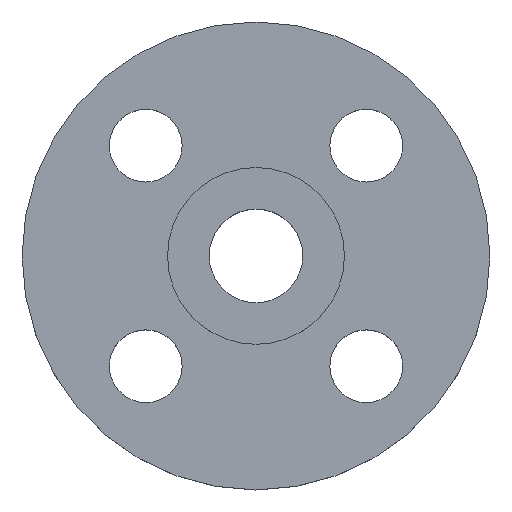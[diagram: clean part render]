
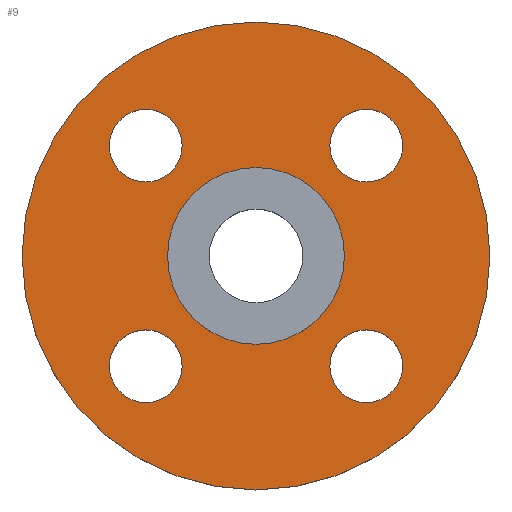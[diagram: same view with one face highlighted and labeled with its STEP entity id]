
A CAD part, top view. The second image highlights one B-rep face of the part: STEP entity #9.
In plain terms, the highlighted planar face has unit normal (0, 0, 1).
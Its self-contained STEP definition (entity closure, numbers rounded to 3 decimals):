
#9 = ADVANCED_FACE ( 'NONE', ( #562, #563, #564, #565, #567, #568 ), #569, .T. ) ;
#15 = EDGE_CURVE ( 'NONE', #715, #373, #125, .T. ) ;
#24 = EDGE_CURVE ( 'NONE', #461, #367, #31, .T. ) ;
#31 = CIRCLE ( 'NONE', #270, 7. ) ;
#36 = AXIS2_PLACEMENT_3D ( 'NONE', #184, #185, #186 ) ;
#61 = CARTESIAN_POINT ( 'NONE',  ( 45., 0., -4.5 ) ) ;
#80 = DIRECTION ( 'NONE',  ( -1., 0., 0. ) ) ;
#81 = DIRECTION ( 'NONE',  ( 0., 0., -1. ) ) ;
#82 = CARTESIAN_POINT ( 'NONE',  ( 0., 0., -4.5 ) ) ;
#86 = CIRCLE ( 'NONE', #268, 17. ) ;
#99 = CARTESIAN_POINT ( 'NONE',  ( -28.213, -21.213, -4.5 ) ) ;
#112 = DIRECTION ( 'NONE',  ( 0., 0., -1. ) ) ;
#114 = CARTESIAN_POINT ( 'NONE',  ( -21.213, 21.213, -4.5 ) ) ;
#118 = EDGE_CURVE ( 'NONE', #373, #715, #127, .T. ) ;
#119 = CIRCLE ( 'NONE', #682, 7. ) ;
#125 = CIRCLE ( 'NONE', #431, 45. ) ;
#127 = CIRCLE ( 'NONE', #392, 45. ) ;
#134 = CARTESIAN_POINT ( 'NONE',  ( 21.213, -21.213, -4.5 ) ) ;
#137 = EDGE_CURVE ( 'NONE', #334, #363, #218, .T. ) ;
#149 = DIRECTION ( 'NONE',  ( 0., 0., -1. ) ) ;
#151 = DIRECTION ( 'NONE',  ( 1., 0., 0. ) ) ;
#152 = CARTESIAN_POINT ( 'NONE',  ( -28.213, 21.213, -4.5 ) ) ;
#153 = CIRCLE ( 'NONE', #340, 7. ) ;
#154 = CARTESIAN_POINT ( 'NONE',  ( -21.213, -21.213, -4.5 ) ) ;
#156 = DIRECTION ( 'NONE',  ( 1., 0., 0. ) ) ;
#164 = CIRCLE ( 'NONE', #361, 7. ) ;
#166 = EDGE_CURVE ( 'NONE', #433, #543, #119, .T. ) ;
#167 = CARTESIAN_POINT ( 'NONE',  ( 17., 0., -4.5 ) ) ;
#184 = CARTESIAN_POINT ( 'NONE',  ( 21.213, 21.213, -4.5 ) ) ;
#185 = DIRECTION ( 'NONE',  ( 0., 0., -1. ) ) ;
#186 = DIRECTION ( 'NONE',  ( 1., 0., 0. ) ) ;
#218 = CIRCLE ( 'NONE', #263, 7. ) ;
#221 = CARTESIAN_POINT ( 'NONE',  ( 28.213, 21.213, -4.5 ) ) ;
#224 = EDGE_CURVE ( 'NONE', #539, #411, #233, .T. ) ;
#233 = CIRCLE ( 'NONE', #577, 17. ) ;
#241 = EDGE_CURVE ( 'NONE', #327, #432, #302, .T. ) ;
#242 = CARTESIAN_POINT ( 'NONE',  ( 28.213, -21.213, -4.5 ) ) ;
#251 = CIRCLE ( 'NONE', #655, 7. ) ;
#263 = AXIS2_PLACEMENT_3D ( 'NONE', #632, #633, #635 ) ;
#268 = AXIS2_PLACEMENT_3D ( 'NONE', #82, #81, #80 ) ;
#270 = AXIS2_PLACEMENT_3D ( 'NONE', #597, #598, #599 ) ;
#271 = CARTESIAN_POINT ( 'NONE',  ( 14.213, -21.213, -4.5 ) ) ;
#276 = CARTESIAN_POINT ( 'NONE',  ( -14.213, -21.213, -4.5 ) ) ;
#280 = CARTESIAN_POINT ( 'NONE',  ( -45., 0., -4.5 ) ) ;
#298 = AXIS2_PLACEMENT_3D ( 'NONE', #571, #572, #573 ) ;
#300 = CARTESIAN_POINT ( 'NONE',  ( 21.213, 21.213, -4.5 ) ) ;
#301 = DIRECTION ( 'NONE',  ( 0., 0., -1. ) ) ;
#302 = CIRCLE ( 'NONE', #36, 7. ) ;
#303 = DIRECTION ( 'NONE',  ( 1., 0., 0. ) ) ;
#309 = CARTESIAN_POINT ( 'NONE',  ( -17., 0., -4.5 ) ) ;
#316 = DIRECTION ( 'NONE',  ( 0., 0., -1. ) ) ;
#327 = VERTEX_POINT ( 'NONE', #221 ) ;
#334 = VERTEX_POINT ( 'NONE', #242 ) ;
#336 = DIRECTION ( 'NONE',  ( 1., 0., 0. ) ) ;
#340 = AXIS2_PLACEMENT_3D ( 'NONE', #154, #316, #336 ) ;
#342 = CARTESIAN_POINT ( 'NONE',  ( 14.213, 21.213, -4.5 ) ) ;
#344 = CARTESIAN_POINT ( 'NONE',  ( -14.213, 21.213, -4.5 ) ) ;
#361 = AXIS2_PLACEMENT_3D ( 'NONE', #300, #301, #303 ) ;
#363 = VERTEX_POINT ( 'NONE', #271 ) ;
#367 = VERTEX_POINT ( 'NONE', #276 ) ;
#373 = VERTEX_POINT ( 'NONE', #280 ) ;
#392 = AXIS2_PLACEMENT_3D ( 'NONE', #623, #625, #626 ) ;
#396 = EDGE_CURVE ( 'NONE', #432, #327, #164, .T. ) ;
#407 = EDGE_LOOP ( 'NONE', ( #460, #462 ) ) ;
#411 = VERTEX_POINT ( 'NONE', #309 ) ;
#422 = AXIS2_PLACEMENT_3D ( 'NONE', #114, #112, #151 ) ;
#431 = AXIS2_PLACEMENT_3D ( 'NONE', #575, #576, #578 ) ;
#432 = VERTEX_POINT ( 'NONE', #342 ) ;
#433 = VERTEX_POINT ( 'NONE', #344 ) ;
#448 = ORIENTED_EDGE ( 'NONE', *, *, #137, .T. ) ;
#449 = ORIENTED_EDGE ( 'NONE', *, *, #538, .T. ) ;
#450 = ORIENTED_EDGE ( 'NONE', *, *, #616, .T. ) ;
#451 = ORIENTED_EDGE ( 'NONE', *, *, #24, .T. ) ;
#452 = ORIENTED_EDGE ( 'NONE', *, *, #166, .T. ) ;
#453 = ORIENTED_EDGE ( 'NONE', *, *, #505, .T. ) ;
#454 = ORIENTED_EDGE ( 'NONE', *, *, #241, .T. ) ;
#455 = ORIENTED_EDGE ( 'NONE', *, *, #396, .T. ) ;
#456 = ORIENTED_EDGE ( 'NONE', *, *, #654, .T. ) ;
#457 = ORIENTED_EDGE ( 'NONE', *, *, #224, .T. ) ;
#459 = EDGE_LOOP ( 'NONE', ( #454, #455 ) ) ;
#460 = ORIENTED_EDGE ( 'NONE', *, *, #15, .F. ) ;
#461 = VERTEX_POINT ( 'NONE', #99 ) ;
#462 = ORIENTED_EDGE ( 'NONE', *, *, #118, .F. ) ;
#492 = EDGE_LOOP ( 'NONE', ( #456, #457 ) ) ;
#497 = EDGE_LOOP ( 'NONE', ( #448, #449 ) ) ;
#505 = EDGE_CURVE ( 'NONE', #543, #433, #594, .T. ) ;
#532 = EDGE_LOOP ( 'NONE', ( #450, #451 ) ) ;
#534 = EDGE_LOOP ( 'NONE', ( #452, #453 ) ) ;
#538 = EDGE_CURVE ( 'NONE', #363, #334, #251, .T. ) ;
#539 = VERTEX_POINT ( 'NONE', #167 ) ;
#543 = VERTEX_POINT ( 'NONE', #152 ) ;
#562 = FACE_BOUND ( 'NONE', #497, .T. ) ;
#563 = FACE_BOUND ( 'NONE', #532, .T. ) ;
#564 = FACE_BOUND ( 'NONE', #534, .T. ) ;
#565 = FACE_BOUND ( 'NONE', #459, .T. ) ;
#567 = FACE_BOUND ( 'NONE', #492, .T. ) ;
#568 = FACE_OUTER_BOUND ( 'NONE', #407, .T. ) ;
#569 = PLANE ( 'NONE',  #298 ) ;
#571 = CARTESIAN_POINT ( 'NONE',  ( 17., 0., -4.5 ) ) ;
#572 = DIRECTION ( 'NONE',  ( 0., 0., 1. ) ) ;
#573 = DIRECTION ( 'NONE',  ( 1., 0., 0. ) ) ;
#575 = CARTESIAN_POINT ( 'NONE',  ( 0., 0., -4.5 ) ) ;
#576 = DIRECTION ( 'NONE',  ( 0., 0., -1. ) ) ;
#577 = AXIS2_PLACEMENT_3D ( 'NONE', #713, #714, #716 ) ;
#578 = DIRECTION ( 'NONE',  ( -1., 0., 0. ) ) ;
#594 = CIRCLE ( 'NONE', #422, 7. ) ;
#597 = CARTESIAN_POINT ( 'NONE',  ( -21.213, -21.213, -4.5 ) ) ;
#598 = DIRECTION ( 'NONE',  ( 0., 0., -1. ) ) ;
#599 = DIRECTION ( 'NONE',  ( 1., 0., 0. ) ) ;
#616 = EDGE_CURVE ( 'NONE', #367, #461, #153, .T. ) ;
#623 = CARTESIAN_POINT ( 'NONE',  ( 0., 0., -4.5 ) ) ;
#625 = DIRECTION ( 'NONE',  ( 0., 0., -1. ) ) ;
#626 = DIRECTION ( 'NONE',  ( -1., 0., 0. ) ) ;
#632 = CARTESIAN_POINT ( 'NONE',  ( 21.213, -21.213, -4.5 ) ) ;
#633 = DIRECTION ( 'NONE',  ( 0., 0., -1. ) ) ;
#635 = DIRECTION ( 'NONE',  ( 1., 0., 0. ) ) ;
#654 = EDGE_CURVE ( 'NONE', #411, #539, #86, .T. ) ;
#655 = AXIS2_PLACEMENT_3D ( 'NONE', #134, #149, #156 ) ;
#668 = CARTESIAN_POINT ( 'NONE',  ( -21.213, 21.213, -4.5 ) ) ;
#669 = DIRECTION ( 'NONE',  ( 0., 0., -1. ) ) ;
#670 = DIRECTION ( 'NONE',  ( 1., 0., 0. ) ) ;
#682 = AXIS2_PLACEMENT_3D ( 'NONE', #668, #669, #670 ) ;
#713 = CARTESIAN_POINT ( 'NONE',  ( 0., 0., -4.5 ) ) ;
#714 = DIRECTION ( 'NONE',  ( 0., 0., -1. ) ) ;
#715 = VERTEX_POINT ( 'NONE', #61 ) ;
#716 = DIRECTION ( 'NONE',  ( -1., 0., 0. ) ) ;
